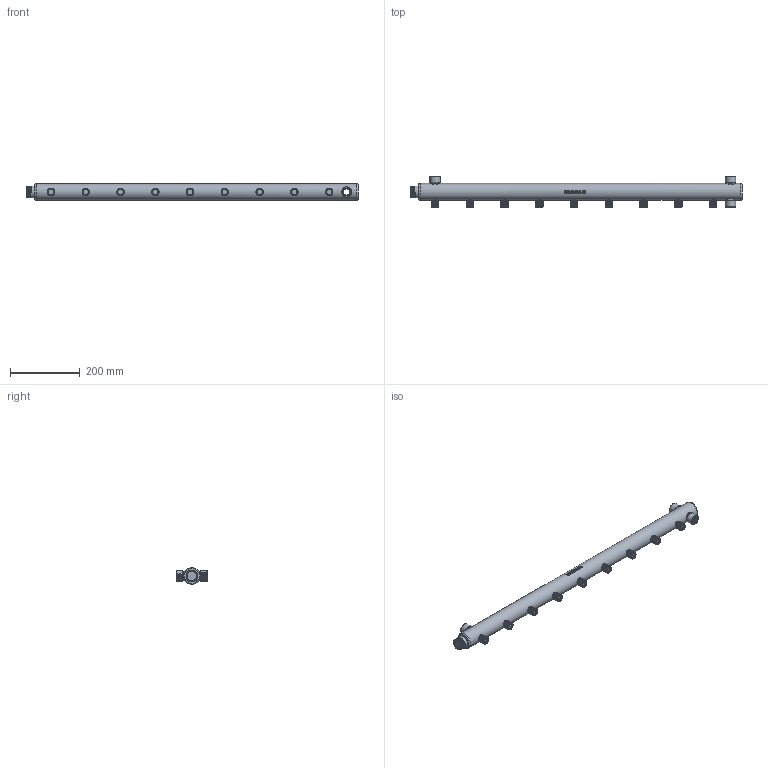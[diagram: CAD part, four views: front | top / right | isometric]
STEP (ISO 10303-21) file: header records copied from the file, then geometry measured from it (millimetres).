
FILE_DESCRIPTION(/* description */ (''),/* implementation_level */ '2;1');
FILE_NAME(/* name */ 'F:\Артём\00000\Работа удаленка\ГРВ\VTc.510.BS.060409.stp',/* time_stamp */ '2022-10-03T10:49:11+03:00',/* author */ ('almis'),/* organization */ (''),/* preprocessor_version */ 'ST-DEVELOPER v18',/* originating_system */ 'Autodesk Inventor 2020',/* authorisation */ '');
FILE_SCHEMA (('AUTOMOTIVE_DESIGN { 1 0 10303 214 3 1 1 }'));
Products named in the file (1): ГРВ-44.100
Bounding box: 955 x 89 x 48.02 mm (x, y, z)
Volume: 524428.4 mm3; surface area: 326672.3 mm2
Topology: 1 solids, 1 shells, 730 faces, 1990 edges, 1319 vertices
Faces by surface type: cylinder 414, plane 198, bspline 76, cone 40, torus 2
Full cylindrical faces by diameter (mm): 15.7 x16, 17.7 x108, 19 x30, 19.3 x9, 21.3 x90, 22.6 x33, 27.1 x1, 28 x5, 28.9 x6, 30 x3, 33.5 x6, 41 x1, 48 x1
Entity records: 60740 total; most frequent: CARTESIAN_POINT 44134, ORIENTED_EDGE 3980, DIRECTION 2567, EDGE_CURVE 1990, VERTEX_POINT 1319, B_SPLINE_CURVE_WITH_KNOTS 984, AXIS2_PLACEMENT_3D 906, EDGE_LOOP 797
